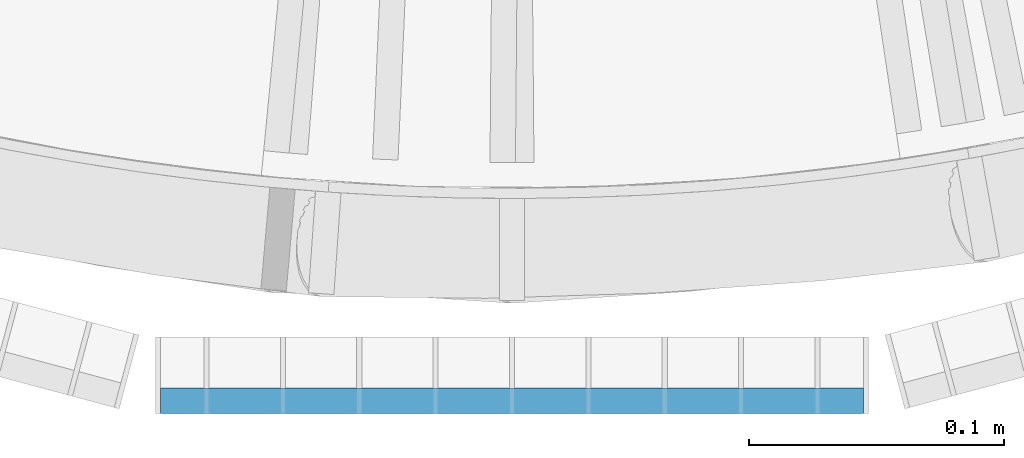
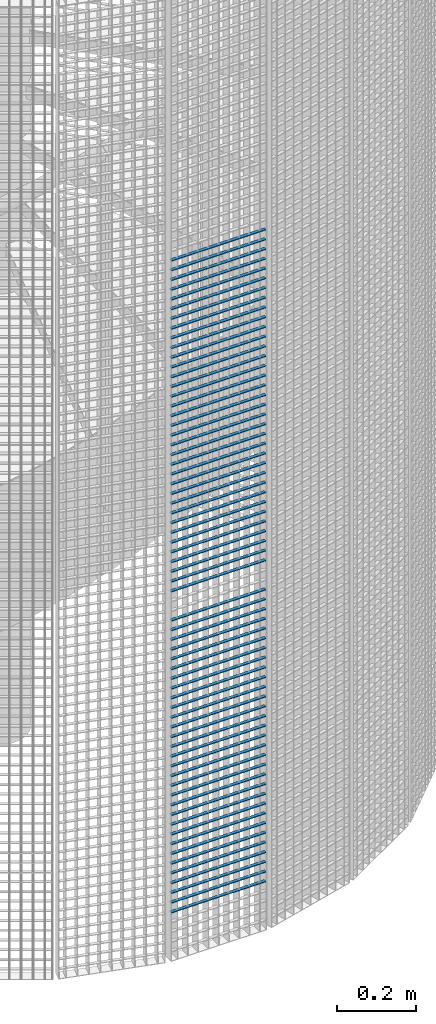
# One storey, part 168 of 1148: 66 beams, 1 element without a shape of its own.
"""IFC2X3 building model written with IfcOpenShell, lengths in millimetres."""

import ifcopenshell
import ifcopenshell.guid

model = None  # the IFC model being written
_history = None  # IfcOwnerHistory: only IFC2X3 demands one
_inside = {}  # id of a spatial element -> (the spatial element, [elements in it])
_under = {}  # id of a project, library or spatial element -> (it, [spatial elements below it])
_declared = {}  # id of a project -> (the project, [libraries it declares])
_typed = {}  # id of a type object -> (the type object, [elements of that type])
_made_of = {}  # id of a material, layer set ... -> (it, [elements and type objects made of it])


def new_model(schema):
    """Start an empty IFC model of exactly this schema.

    Asked for "IFC4X3", IfcOpenShell would pick the latest addendum, in which some entities
    have other attributes; the version numbers below select the first issue.
    IFC2X3 requires an IfcOwnerHistory on every rooted entity: one is made here for all.
    """
    global model, _history
    if schema == "IFC4X3":
        model = ifcopenshell.file(schema_version=(4, 3, 0, 0))
    else:
        model = ifcopenshell.file(schema=schema)
    _inside.clear()
    _under.clear()
    _declared.clear()
    _typed.clear()
    _made_of.clear()
    _history = None
    if model.schema == "IFC2X3":
        org = make("IfcOrganization", Name="unknown")
        user = make(
            "IfcPersonAndOrganization",
            ThePerson=make("IfcPerson", FamilyName="unknown"),
            TheOrganization=org,
        )
        app = make(
            "IfcApplication",
            ApplicationDeveloper=org,
            Version="unknown",
            ApplicationFullName="unknown",
            ApplicationIdentifier="unknown",
        )
        _history = make(
            "IfcOwnerHistory",
            OwningUser=user,
            OwningApplication=app,
            ChangeAction="ADDED",
            CreationDate=0,
        )
    return model


def make(cls, **values):
    """One entity of the class cls with the attributes given. An attribute that is None is left unset."""
    return model.create_entity(
        cls, **{name: value for name, value in values.items() if value is not None}
    )


def rooted(cls, **values):
    """An entity with a GlobalId (a new one), such as an element, a storey or a relation."""
    return make(cls, GlobalId=ifcopenshell.guid.new(), OwnerHistory=_history, **values)


def si_unit(unit_type, name, prefix=None):
    """IfcSIUnit, for example si_unit("LENGTHUNIT", "METRE", prefix="MILLI")."""
    return make("IfcSIUnit", UnitType=unit_type, Prefix=prefix, Name=name)


def assignment(units):
    """IfcUnitAssignment: the units of a project."""
    return None if units is None else make("IfcUnitAssignment", Units=units)


def point(xyz):
    """IfcCartesianPoint."""
    return None if xyz is None else make("IfcCartesianPoint", Coordinates=xyz)


def direction(xyz):
    """IfcDirection."""
    return None if xyz is None else make("IfcDirection", DirectionRatios=xyz)


def frame(location, z_axis=None, x_axis=None):
    """IfcAxis2Placement3D, a coordinate frame: its origin and axes. An axis left out is left unset."""
    return make(
        "IfcAxis2Placement3D",
        Location=point(location),
        Axis=direction(z_axis),
        RefDirection=direction(x_axis),
    )


def frame_2d(location, x_axis=None):
    """IfcAxis2Placement2D, a coordinate frame in the plane: its origin and x axis."""
    return make(
        "IfcAxis2Placement2D", Location=point(location), RefDirection=direction(x_axis)
    )


def origin_with_axes():
    """The frame at (0, 0, 0) with the z axis (0, 0, 1) and the x axis (1, 0, 0) written out."""
    return frame((0.0, 0.0, 0.0), z_axis=(0.0, 0.0, 1.0), x_axis=(1.0, 0.0, 0.0))


def origin_2d_with_axis():
    """The frame at (0, 0) in the plane with the x axis (1, 0) written out."""
    return frame_2d((0.0, 0.0), x_axis=(1.0, 0.0))


def place(relative_to, where):
    """IfcLocalPlacement: puts the frame where relative to a parent placement (None: the world)."""
    return make(
        "IfcLocalPlacement", PlacementRelTo=relative_to, RelativePlacement=where
    )


def context(
    kind, dimensions, precision=None, world=None, true_north=None, identifier=None
):
    """IfcGeometricRepresentationContext, for example the 3D "Model" context."""
    return make(
        "IfcGeometricRepresentationContext",
        ContextIdentifier=identifier,
        ContextType=kind,
        CoordinateSpaceDimension=dimensions,
        Precision=precision,
        WorldCoordinateSystem=world,
        TrueNorth=true_north,
    )


def subcontext(parent, identifier, kind, view, scale=None):
    """IfcGeometricRepresentationSubContext, for example "Body" below "Model"."""
    return make(
        "IfcGeometricRepresentationSubContext",
        ContextIdentifier=identifier,
        ContextType=kind,
        ParentContext=parent,
        TargetScale=scale,
        TargetView=view,
    )


def project(units=None, contexts=None):
    """IfcProject with its units and contexts."""
    return rooted(
        "IfcProject",
        Name="project",
        RepresentationContexts=contexts,
        UnitsInContext=assignment(units),
    )


def spatial(cls, under=None, at=None, **own):
    """A site, building, storey or space (cls), placed at a placement, below another one or the project."""
    s = rooted(cls, ObjectPlacement=at, **own)
    if under is not None:
        _under.setdefault(under.id(), (under, []))[1].append(s)
    return s


def profile(cls, at=None, kind="AREA", **sizes):
    """A parametric profile (cls). Its sizes go by their IFC names, for example OverallWidth=200.0."""
    return make(cls, ProfileType=kind, Position=at, **sizes)


def rectangle(**sizes):
    """IfcRectangleProfileDef."""
    return profile("IfcRectangleProfileDef", **sizes)


def extrude(swept, where, along, depth):
    """IfcExtrudedAreaSolid: the profile swept, set in the frame where, extruded along a direction by depth."""
    return make(
        "IfcExtrudedAreaSolid",
        SweptArea=swept,
        Position=where,
        ExtrudedDirection=direction(along),
        Depth=depth,
    )


def shape(context_of_items, identifier, shape_type, items):
    """IfcShapeRepresentation: the items that make up one representation, for example the "Body"."""
    return make(
        "IfcShapeRepresentation",
        ContextOfItems=context_of_items,
        RepresentationIdentifier=identifier,
        RepresentationType=shape_type,
        Items=items,
    )


def material(Name=None, Category=None):
    """IfcMaterial."""
    return make("IfcMaterial", Name=Name, Category=Category)


def made_of(thing, what):
    """Note that an element or type object is made of a material, layer set ...; save() writes the relation."""
    if what is not None:
        _made_of.setdefault(what.id(), (what, []))[1].append(thing)
    return thing


def type_object(cls, material=None, **own):
    """A type object (cls), such as IfcWallType, which elements share."""
    return made_of(rooted(cls, **own), material)


def element(
    cls,
    number,
    at=None,
    inside=None,
    cuts=None,
    type_object=None,
    material=None,
    context=None,
    identifier="Body",
    shape_type=None,
    held_by="IfcProductDefinitionShape",
    body=None,
    shapes=None,
    **own,
):
    """One element of the class cls, such as IfcWall. Its Tag is "e" and its number.

    at: its placement. inside: the storey or other place that contains it. cuts: it is an
    opening in that element (IfcRelVoidsElement). A single representation is given by context,
    identifier, shape_type and body (its items); several are given by shapes. held_by: the class
    of the entity that holds the representations. save() writes the other relations.
    """
    e = rooted(cls, Tag="e%d" % number, ObjectPlacement=at, **own)
    if body is not None:
        shapes = [shape(context, identifier, shape_type, body)]
    if shapes is not None:
        e.Representation = make(held_by, Representations=shapes)
    if inside is not None:
        _inside.setdefault(inside.id(), (inside, []))[1].append(e)
    if cuts is not None:
        rooted(
            "IfcRelVoidsElement", RelatingBuildingElement=cuts, RelatedOpeningElement=e
        )
    if type_object is not None:
        _typed.setdefault(type_object.id(), (type_object, []))[1].append(e)
    return made_of(e, material)


def aggregate(whole, parts):
    """IfcRelAggregates: a whole, such as a stair, and the parts it consists of."""
    return rooted("IfcRelAggregates", RelatingObject=whole, RelatedObjects=parts)


def save(model, path):
    """Write the relations noted so far, then the file.

    IfcRelAggregates (storeys below a building ...), IfcRelContainedInSpatialStructure (elements
    in a storey), IfcRelDefinesByType, IfcRelAssociatesMaterial and IfcRelDeclares: one each for
    every whole, place, type object, material and project.
    """
    for whole, parts in _under.values():
        aggregate(whole, parts)
    for where, things in _inside.values():
        rooted(
            "IfcRelContainedInSpatialStructure",
            RelatedElements=things,
            RelatingStructure=where,
        )
    for kind, things in _typed.values():
        rooted("IfcRelDefinesByType", RelatedObjects=things, RelatingType=kind)
    for what, things in _made_of.values():
        rooted("IfcRelAssociatesMaterial", RelatedObjects=things, RelatingMaterial=what)
    for by, libraries in _declared.values():
        rooted("IfcRelDeclares", RelatingContext=by, RelatedDefinitions=libraries)
    model.write(path)


model = new_model("IFC2X3")

# Units and contexts
model_context = context("Model", 3, precision=1e-05, world=origin_with_axes())
body_context = subcontext(model_context, "Body", "Model", "MODEL_VIEW")
ifc_project = project(units=[si_unit("LENGTHUNIT", "METRE", prefix="MILLI"), si_unit("AREAUNIT", "SQUARE_METRE"), si_unit("VOLUMEUNIT", "CUBIC_METRE"), si_unit("MASSUNIT", "GRAM", prefix="KILO"), si_unit("TIMEUNIT", "SECOND"), si_unit("PLANEANGLEUNIT", "RADIAN"), si_unit("SOLIDANGLEUNIT", "STERADIAN"), si_unit("THERMODYNAMICTEMPERATUREUNIT", "DEGREE_CELSIUS"), si_unit("LUMINOUSINTENSITYUNIT", "LUMEN")], contexts=[model_context])

# Site, building, storey
site_placement = place(None, origin_with_axes())
site = spatial("IfcSite", under=ifc_project, at=site_placement, Name="Undefined", CompositionType="ELEMENT")
building_placement = place(site_placement, origin_with_axes())
building = spatial("IfcBuilding", under=site, at=building_placement, Name="Undefined", CompositionType="ELEMENT")
storey_placement = place(building_placement, origin_with_axes())
storey = spatial("IfcBuildingStorey", under=building, at=storey_placement, Name="Undefined", CompositionType="ELEMENT", Elevation=0.0)

# Assembly, beams
assembly_placement = place(storey_placement, origin_with_axes())
assembly = element("IfcElementAssembly", 1, at=assembly_placement, inside=storey, Name="BORDURE", AssemblyPlace="NOTDEFINED", PredefinedType="NOTDEFINED")
ifc_material = material(Name="STEEL/S235JR")
beam_type = type_object("IfcBeamType", Name="PL2*10", PredefinedType="NOTDEFINED")
beam_1_placement = place(assembly_placement, frame((-137.996003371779, -1113.47999999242, 2160.0), z_axis=(0.0, -1.0, 0.0), x_axis=(1.0, 0.0, 0.0)))
beam_1 = element("IfcBeam", 2, at=beam_1_placement, type_object=beam_type, material=ifc_material, Name="ENTRETOISE", context=body_context, shape_type="SweptSolid", body=[
    extrude(rectangle(XDim=2.0, YDim=10.0, at=origin_2d_with_axis()), frame((275.999999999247, 9.09494701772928e-13, 1.53210777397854e-14), z_axis=(-1.0, 0.0, 0.0), x_axis=(0.0, -1.0, 0.0)), (0.0, 0.0, 1.0), 276.0),
])
beam_2_placement = place(assembly_placement, frame((-137.996003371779, -1113.47999999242, 2130.0), z_axis=(0.0, -1.0, 0.0), x_axis=(1.0, 0.0, 0.0)))
beam_2 = element("IfcBeam", 3, at=beam_2_placement, type_object=beam_type, material=ifc_material, Name="ENTRETOISE", context=body_context, shape_type="SweptSolid", body=[
    extrude(rectangle(XDim=2.0, YDim=10.0, at=origin_2d_with_axis()), frame((275.999999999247, 9.09494701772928e-13, 1.53210777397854e-14), z_axis=(-1.0, 0.0, 0.0), x_axis=(0.0, -1.0, 0.0)), (0.0, 0.0, 1.0), 276.0),
])
beam_3_placement = place(assembly_placement, frame((-137.996003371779, -1113.47999999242, 2100.0), z_axis=(0.0, -1.0, 0.0), x_axis=(1.0, 0.0, 0.0)))
beam_3 = element("IfcBeam", 4, at=beam_3_placement, type_object=beam_type, material=ifc_material, Name="ENTRETOISE", context=body_context, shape_type="SweptSolid", body=[
    extrude(rectangle(XDim=2.0, YDim=10.0, at=origin_2d_with_axis()), frame((275.999999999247, 9.09494701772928e-13, 1.53210777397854e-14), z_axis=(-1.0, 0.0, 0.0), x_axis=(0.0, -1.0, 0.0)), (0.0, 0.0, 1.0), 276.0),
])
beam_4_placement = place(assembly_placement, frame((-137.996003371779, -1113.47999999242, 2070.0), z_axis=(0.0, -1.0, 0.0), x_axis=(1.0, 0.0, 0.0)))
beam_4 = element("IfcBeam", 5, at=beam_4_placement, type_object=beam_type, material=ifc_material, Name="ENTRETOISE", context=body_context, shape_type="SweptSolid", body=[
    extrude(rectangle(XDim=2.0, YDim=10.0, at=origin_2d_with_axis()), frame((275.999999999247, 9.09494701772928e-13, 1.53210777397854e-14), z_axis=(-1.0, 0.0, 0.0), x_axis=(0.0, -1.0, 0.0)), (0.0, 0.0, 1.0), 276.0),
])
beam_5_placement = place(assembly_placement, frame((-137.996003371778, -1113.47999999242, 2040.0), z_axis=(0.0, -1.0, 0.0), x_axis=(1.0, 0.0, 0.0)))
beam_5 = element("IfcBeam", 6, at=beam_5_placement, type_object=beam_type, material=ifc_material, Name="ENTRETOISE", context=body_context, shape_type="SweptSolid", body=[
    extrude(rectangle(XDim=2.0, YDim=10.0, at=origin_2d_with_axis()), frame((275.999999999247, 9.09494701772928e-13, 1.53210777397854e-14), z_axis=(-1.0, 0.0, 0.0), x_axis=(0.0, -1.0, 0.0)), (0.0, 0.0, 1.0), 276.0),
])
beam_6_placement = place(assembly_placement, frame((-137.996003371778, -1113.47999999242, 2010.0), z_axis=(0.0, -1.0, 0.0), x_axis=(1.0, 0.0, 0.0)))
beam_6 = element("IfcBeam", 7, at=beam_6_placement, type_object=beam_type, material=ifc_material, Name="ENTRETOISE", context=body_context, shape_type="SweptSolid", body=[
    extrude(rectangle(XDim=2.0, YDim=10.0, at=origin_2d_with_axis()), frame((275.999999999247, 9.09494701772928e-13, 1.53210777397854e-14), z_axis=(-1.0, 0.0, 0.0), x_axis=(0.0, -1.0, 0.0)), (0.0, 0.0, 1.0), 276.0),
])
beam_7_placement = place(assembly_placement, frame((-137.996003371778, -1113.47999999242, 1980.0), z_axis=(0.0, -1.0, 0.0), x_axis=(1.0, 0.0, 0.0)))
beam_7 = element("IfcBeam", 8, at=beam_7_placement, type_object=beam_type, material=ifc_material, Name="ENTRETOISE", context=body_context, shape_type="SweptSolid", body=[
    extrude(rectangle(XDim=2.0, YDim=10.0, at=origin_2d_with_axis()), frame((275.999999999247, 9.09494701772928e-13, 1.53210777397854e-14), z_axis=(-1.0, 0.0, 0.0), x_axis=(0.0, -1.0, 0.0)), (0.0, 0.0, 1.0), 276.0),
])
beam_8_placement = place(assembly_placement, frame((-137.996003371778, -1113.47999999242, 1950.0), z_axis=(0.0, -1.0, 0.0), x_axis=(1.0, 0.0, 0.0)))
beam_8 = element("IfcBeam", 9, at=beam_8_placement, type_object=beam_type, material=ifc_material, Name="ENTRETOISE", context=body_context, shape_type="SweptSolid", body=[
    extrude(rectangle(XDim=2.0, YDim=10.0, at=origin_2d_with_axis()), frame((275.999999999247, 9.09494701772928e-13, 1.53210777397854e-14), z_axis=(-1.0, 0.0, 0.0), x_axis=(0.0, -1.0, 0.0)), (0.0, 0.0, 1.0), 276.0),
])
beam_9_placement = place(assembly_placement, frame((-137.996003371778, -1113.47999999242, 1920.0), z_axis=(0.0, -1.0, 0.0), x_axis=(1.0, 0.0, 0.0)))
beam_9 = element("IfcBeam", 10, at=beam_9_placement, type_object=beam_type, material=ifc_material, Name="ENTRETOISE", context=body_context, shape_type="SweptSolid", body=[
    extrude(rectangle(XDim=2.0, YDim=10.0, at=origin_2d_with_axis()), frame((275.999999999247, 9.09494701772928e-13, 1.53210777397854e-14), z_axis=(-1.0, 0.0, 0.0), x_axis=(0.0, -1.0, 0.0)), (0.0, 0.0, 1.0), 276.0),
])
beam_10_placement = place(assembly_placement, frame((-137.996003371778, -1113.47999999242, 1890.0), z_axis=(0.0, -1.0, 0.0), x_axis=(1.0, 0.0, 0.0)))
beam_10 = element("IfcBeam", 11, at=beam_10_placement, type_object=beam_type, material=ifc_material, Name="ENTRETOISE", context=body_context, shape_type="SweptSolid", body=[
    extrude(rectangle(XDim=2.0, YDim=10.0, at=origin_2d_with_axis()), frame((275.999999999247, 9.09494701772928e-13, 1.53210777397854e-14), z_axis=(-1.0, 0.0, 0.0), x_axis=(0.0, -1.0, 0.0)), (0.0, 0.0, 1.0), 276.0),
])
beam_11_placement = place(assembly_placement, frame((-137.996003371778, -1113.47999999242, 1860.0), z_axis=(0.0, -1.0, 0.0), x_axis=(1.0, 0.0, 0.0)))
beam_11 = element("IfcBeam", 12, at=beam_11_placement, type_object=beam_type, material=ifc_material, Name="ENTRETOISE", context=body_context, shape_type="SweptSolid", body=[
    extrude(rectangle(XDim=2.0, YDim=10.0, at=origin_2d_with_axis()), frame((275.999999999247, 9.09494701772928e-13, 1.53210777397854e-14), z_axis=(-1.0, 0.0, 0.0), x_axis=(0.0, -1.0, 0.0)), (0.0, 0.0, 1.0), 276.0),
])
beam_12_placement = place(assembly_placement, frame((-137.996003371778, -1113.47999999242, 1830.0), z_axis=(0.0, -1.0, 0.0), x_axis=(1.0, 0.0, 0.0)))
beam_12 = element("IfcBeam", 13, at=beam_12_placement, type_object=beam_type, material=ifc_material, Name="ENTRETOISE", context=body_context, shape_type="SweptSolid", body=[
    extrude(rectangle(XDim=2.0, YDim=10.0, at=origin_2d_with_axis()), frame((275.999999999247, 9.09494701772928e-13, 1.53210777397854e-14), z_axis=(-1.0, 0.0, 0.0), x_axis=(0.0, -1.0, 0.0)), (0.0, 0.0, 1.0), 276.0),
])
beam_13_placement = place(assembly_placement, frame((-137.996003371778, -1113.47999999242, 1800.0), z_axis=(0.0, -1.0, 0.0), x_axis=(1.0, 0.0, 0.0)))
beam_13 = element("IfcBeam", 14, at=beam_13_placement, type_object=beam_type, material=ifc_material, Name="ENTRETOISE", context=body_context, shape_type="SweptSolid", body=[
    extrude(rectangle(XDim=2.0, YDim=10.0, at=origin_2d_with_axis()), frame((275.999999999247, 9.09494701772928e-13, 1.53210777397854e-14), z_axis=(-1.0, 0.0, 0.0), x_axis=(0.0, -1.0, 0.0)), (0.0, 0.0, 1.0), 276.0),
])
beam_14_placement = place(assembly_placement, frame((-137.996003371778, -1113.47999999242, 1770.0), z_axis=(0.0, -1.0, 0.0), x_axis=(1.0, 0.0, 0.0)))
beam_14 = element("IfcBeam", 15, at=beam_14_placement, type_object=beam_type, material=ifc_material, Name="ENTRETOISE", context=body_context, shape_type="SweptSolid", body=[
    extrude(rectangle(XDim=2.0, YDim=10.0, at=origin_2d_with_axis()), frame((275.999999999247, 9.09494701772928e-13, 1.53210777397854e-14), z_axis=(-1.0, 0.0, 0.0), x_axis=(0.0, -1.0, 0.0)), (0.0, 0.0, 1.0), 276.0),
])
beam_15_placement = place(assembly_placement, frame((-137.996003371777, -1113.47999999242, 1740.0), z_axis=(0.0, -1.0, 0.0), x_axis=(1.0, 0.0, 0.0)))
beam_15 = element("IfcBeam", 16, at=beam_15_placement, type_object=beam_type, material=ifc_material, Name="ENTRETOISE", context=body_context, shape_type="SweptSolid", body=[
    extrude(rectangle(XDim=2.0, YDim=10.0, at=origin_2d_with_axis()), frame((275.999999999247, 9.09494701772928e-13, 1.53210777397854e-14), z_axis=(-1.0, 0.0, 0.0), x_axis=(0.0, -1.0, 0.0)), (0.0, 0.0, 1.0), 276.0),
])
beam_16_placement = place(assembly_placement, frame((-137.996003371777, -1113.47999999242, 1710.0), z_axis=(0.0, -1.0, 0.0), x_axis=(1.0, 0.0, 0.0)))
beam_16 = element("IfcBeam", 17, at=beam_16_placement, type_object=beam_type, material=ifc_material, Name="ENTRETOISE", context=body_context, shape_type="SweptSolid", body=[
    extrude(rectangle(XDim=2.0, YDim=10.0, at=origin_2d_with_axis()), frame((275.999999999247, 9.09494701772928e-13, 1.53210777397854e-14), z_axis=(-1.0, 0.0, 0.0), x_axis=(0.0, -1.0, 0.0)), (0.0, 0.0, 1.0), 276.0),
])
beam_17_placement = place(assembly_placement, frame((-137.996003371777, -1113.47999999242, 1680.0), z_axis=(0.0, -1.0, 0.0), x_axis=(1.0, 0.0, 0.0)))
beam_17 = element("IfcBeam", 18, at=beam_17_placement, type_object=beam_type, material=ifc_material, Name="ENTRETOISE", context=body_context, shape_type="SweptSolid", body=[
    extrude(rectangle(XDim=2.0, YDim=10.0, at=origin_2d_with_axis()), frame((275.999999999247, 9.09494701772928e-13, 1.53210777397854e-14), z_axis=(-1.0, 0.0, 0.0), x_axis=(0.0, -1.0, 0.0)), (0.0, 0.0, 1.0), 276.0),
])
beam_18_placement = place(assembly_placement, frame((-137.996003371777, -1113.47999999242, 1650.0), z_axis=(0.0, -1.0, 0.0), x_axis=(1.0, 0.0, 0.0)))
beam_18 = element("IfcBeam", 19, at=beam_18_placement, type_object=beam_type, material=ifc_material, Name="ENTRETOISE", context=body_context, shape_type="SweptSolid", body=[
    extrude(rectangle(XDim=2.0, YDim=10.0, at=origin_2d_with_axis()), frame((275.999999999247, 9.09494701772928e-13, 1.53210777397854e-14), z_axis=(-1.0, 0.0, 0.0), x_axis=(0.0, -1.0, 0.0)), (0.0, 0.0, 1.0), 276.0),
])
beam_19_placement = place(assembly_placement, frame((-137.996003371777, -1113.47999999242, 1620.0), z_axis=(0.0, -1.0, 0.0), x_axis=(1.0, 0.0, 0.0)))
beam_19 = element("IfcBeam", 20, at=beam_19_placement, type_object=beam_type, material=ifc_material, Name="ENTRETOISE", context=body_context, shape_type="SweptSolid", body=[
    extrude(rectangle(XDim=2.0, YDim=10.0, at=origin_2d_with_axis()), frame((275.999999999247, 9.09494701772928e-13, 1.53210777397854e-14), z_axis=(-1.0, 0.0, 0.0), x_axis=(0.0, -1.0, 0.0)), (0.0, 0.0, 1.0), 276.0),
])
beam_20_placement = place(assembly_placement, frame((-137.996003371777, -1113.47999999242, 1590.0), z_axis=(0.0, -1.0, 0.0), x_axis=(1.0, 0.0, 0.0)))
beam_20 = element("IfcBeam", 21, at=beam_20_placement, type_object=beam_type, material=ifc_material, Name="ENTRETOISE", context=body_context, shape_type="SweptSolid", body=[
    extrude(rectangle(XDim=2.0, YDim=10.0, at=origin_2d_with_axis()), frame((275.999999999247, 9.09494701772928e-13, 1.53210777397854e-14), z_axis=(-1.0, 0.0, 0.0), x_axis=(0.0, -1.0, 0.0)), (0.0, 0.0, 1.0), 276.0),
])
beam_21_placement = place(assembly_placement, frame((-137.996003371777, -1113.47999999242, 1560.0), z_axis=(0.0, -1.0, 0.0), x_axis=(1.0, 0.0, 0.0)))
beam_21 = element("IfcBeam", 22, at=beam_21_placement, type_object=beam_type, material=ifc_material, Name="ENTRETOISE", context=body_context, shape_type="SweptSolid", body=[
    extrude(rectangle(XDim=2.0, YDim=10.0, at=origin_2d_with_axis()), frame((275.999999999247, 9.09494701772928e-13, 1.53210777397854e-14), z_axis=(-1.0, 0.0, 0.0), x_axis=(0.0, -1.0, 0.0)), (0.0, 0.0, 1.0), 276.0),
])
beam_22_placement = place(assembly_placement, frame((-137.996003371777, -1113.47999999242, 1530.0), z_axis=(0.0, -1.0, 0.0), x_axis=(1.0, 0.0, 0.0)))
beam_22 = element("IfcBeam", 23, at=beam_22_placement, type_object=beam_type, material=ifc_material, Name="ENTRETOISE", context=body_context, shape_type="SweptSolid", body=[
    extrude(rectangle(XDim=2.0, YDim=10.0, at=origin_2d_with_axis()), frame((275.999999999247, 9.09494701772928e-13, 1.53210777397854e-14), z_axis=(-1.0, 0.0, 0.0), x_axis=(0.0, -1.0, 0.0)), (0.0, 0.0, 1.0), 276.0),
])
beam_23_placement = place(assembly_placement, frame((-137.996003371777, -1113.47999999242, 1500.0), z_axis=(0.0, -1.0, 0.0), x_axis=(1.0, 0.0, 0.0)))
beam_23 = element("IfcBeam", 24, at=beam_23_placement, type_object=beam_type, material=ifc_material, Name="ENTRETOISE", context=body_context, shape_type="SweptSolid", body=[
    extrude(rectangle(XDim=2.0, YDim=10.0, at=origin_2d_with_axis()), frame((275.999999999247, 9.09494701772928e-13, 1.53210777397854e-14), z_axis=(-1.0, 0.0, 0.0), x_axis=(0.0, -1.0, 0.0)), (0.0, 0.0, 1.0), 276.0),
])
beam_24_placement = place(assembly_placement, frame((-137.996003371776, -1113.47999999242, 1470.0), z_axis=(0.0, -1.0, 0.0), x_axis=(1.0, 0.0, 0.0)))
beam_24 = element("IfcBeam", 25, at=beam_24_placement, type_object=beam_type, material=ifc_material, Name="ENTRETOISE", context=body_context, shape_type="SweptSolid", body=[
    extrude(rectangle(XDim=2.0, YDim=10.0, at=origin_2d_with_axis()), frame((275.999999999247, 9.09494701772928e-13, 1.53210777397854e-14), z_axis=(-1.0, 0.0, 0.0), x_axis=(0.0, -1.0, 0.0)), (0.0, 0.0, 1.0), 276.0),
])
beam_25_placement = place(assembly_placement, frame((-137.996003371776, -1113.47999999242, 1440.0), z_axis=(0.0, -1.0, 0.0), x_axis=(1.0, 0.0, 0.0)))
beam_25 = element("IfcBeam", 26, at=beam_25_placement, type_object=beam_type, material=ifc_material, Name="ENTRETOISE", context=body_context, shape_type="SweptSolid", body=[
    extrude(rectangle(XDim=2.0, YDim=10.0, at=origin_2d_with_axis()), frame((275.999999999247, 9.09494701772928e-13, 1.53210777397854e-14), z_axis=(-1.0, 0.0, 0.0), x_axis=(0.0, -1.0, 0.0)), (0.0, 0.0, 1.0), 276.0),
])
beam_26_placement = place(assembly_placement, frame((-137.996003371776, -1113.47999999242, 1410.0), z_axis=(0.0, -1.0, 0.0), x_axis=(1.0, 0.0, 0.0)))
beam_26 = element("IfcBeam", 27, at=beam_26_placement, type_object=beam_type, material=ifc_material, Name="ENTRETOISE", context=body_context, shape_type="SweptSolid", body=[
    extrude(rectangle(XDim=2.0, YDim=10.0, at=origin_2d_with_axis()), frame((275.999999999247, 9.09494701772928e-13, 1.53210777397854e-14), z_axis=(-1.0, 0.0, 0.0), x_axis=(0.0, -1.0, 0.0)), (0.0, 0.0, 1.0), 276.0),
])
beam_27_placement = place(assembly_placement, frame((-137.996003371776, -1113.47999999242, 1380.0), z_axis=(0.0, -1.0, 0.0), x_axis=(1.0, 0.0, 0.0)))
beam_27 = element("IfcBeam", 28, at=beam_27_placement, type_object=beam_type, material=ifc_material, Name="ENTRETOISE", context=body_context, shape_type="SweptSolid", body=[
    extrude(rectangle(XDim=2.0, YDim=10.0, at=origin_2d_with_axis()), frame((275.999999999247, 9.09494701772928e-13, 1.53210777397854e-14), z_axis=(-1.0, 0.0, 0.0), x_axis=(0.0, -1.0, 0.0)), (0.0, 0.0, 1.0), 276.0),
])
beam_28_placement = place(assembly_placement, frame((-137.996003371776, -1113.47999999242, 1350.0), z_axis=(0.0, -1.0, 0.0), x_axis=(1.0, 0.0, 0.0)))
beam_28 = element("IfcBeam", 29, at=beam_28_placement, type_object=beam_type, material=ifc_material, Name="ENTRETOISE", context=body_context, shape_type="SweptSolid", body=[
    extrude(rectangle(XDim=2.0, YDim=10.0, at=origin_2d_with_axis()), frame((275.999999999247, 9.09494701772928e-13, 1.53210777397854e-14), z_axis=(-1.0, 0.0, 0.0), x_axis=(0.0, -1.0, 0.0)), (0.0, 0.0, 1.0), 276.0),
])
beam_29_placement = place(assembly_placement, frame((-137.996003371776, -1113.47999999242, 1320.0), z_axis=(0.0, -1.0, 0.0), x_axis=(1.0, 0.0, 0.0)))
beam_29 = element("IfcBeam", 30, at=beam_29_placement, type_object=beam_type, material=ifc_material, Name="ENTRETOISE", context=body_context, shape_type="SweptSolid", body=[
    extrude(rectangle(XDim=2.0, YDim=10.0, at=origin_2d_with_axis()), frame((275.999999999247, 9.09494701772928e-13, 1.53210777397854e-14), z_axis=(-1.0, 0.0, 0.0), x_axis=(0.0, -1.0, 0.0)), (0.0, 0.0, 1.0), 276.0),
])
beam_30_placement = place(assembly_placement, frame((-137.996003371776, -1113.47999999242, 1290.0), z_axis=(0.0, -1.0, 0.0), x_axis=(1.0, 0.0, 0.0)))
beam_30 = element("IfcBeam", 31, at=beam_30_placement, type_object=beam_type, material=ifc_material, Name="ENTRETOISE", context=body_context, shape_type="SweptSolid", body=[
    extrude(rectangle(XDim=2.0, YDim=10.0, at=origin_2d_with_axis()), frame((275.999999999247, 9.09494701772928e-13, 1.53210777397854e-14), z_axis=(-1.0, 0.0, 0.0), x_axis=(0.0, -1.0, 0.0)), (0.0, 0.0, 1.0), 276.0),
])
beam_31_placement = place(assembly_placement, frame((-137.996003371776, -1113.47999999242, 1260.0), z_axis=(0.0, -1.0, 0.0), x_axis=(1.0, 0.0, 0.0)))
beam_31 = element("IfcBeam", 32, at=beam_31_placement, type_object=beam_type, material=ifc_material, Name="ENTRETOISE", context=body_context, shape_type="SweptSolid", body=[
    extrude(rectangle(XDim=2.0, YDim=10.0, at=origin_2d_with_axis()), frame((275.999999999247, 9.09494701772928e-13, 1.53210777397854e-14), z_axis=(-1.0, 0.0, 0.0), x_axis=(0.0, -1.0, 0.0)), (0.0, 0.0, 1.0), 276.0),
])
beam_32_placement = place(assembly_placement, frame((-137.996003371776, -1113.47999999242, 1230.0), z_axis=(0.0, -1.0, 0.0), x_axis=(1.0, 0.0, 0.0)))
beam_32 = element("IfcBeam", 33, at=beam_32_placement, type_object=beam_type, material=ifc_material, Name="ENTRETOISE", context=body_context, shape_type="SweptSolid", body=[
    extrude(rectangle(XDim=2.0, YDim=10.0, at=origin_2d_with_axis()), frame((275.999999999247, 9.09494701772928e-13, 1.53210777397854e-14), z_axis=(-1.0, 0.0, 0.0), x_axis=(0.0, -1.0, 0.0)), (0.0, 0.0, 1.0), 276.0),
])
beam_33_placement = place(assembly_placement, frame((-137.996003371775, -1113.47999999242, 1200.0), z_axis=(0.0, -1.0, 0.0), x_axis=(1.0, 0.0, 0.0)))
beam_33 = element("IfcBeam", 34, at=beam_33_placement, type_object=beam_type, material=ifc_material, Name="ENTRETOISE", context=body_context, shape_type="SweptSolid", body=[
    extrude(rectangle(XDim=2.0, YDim=10.0, at=origin_2d_with_axis()), frame((275.999999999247, 9.09494701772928e-13, 1.53210777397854e-14), z_axis=(-1.0, 0.0, 0.0), x_axis=(0.0, -1.0, 0.0)), (0.0, 0.0, 1.0), 276.0),
])
beam_34_placement = place(assembly_placement, frame((-137.996003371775, -1113.47999999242, 1170.0), z_axis=(0.0, -1.0, 0.0), x_axis=(1.0, 0.0, 0.0)))
beam_34 = element("IfcBeam", 35, at=beam_34_placement, type_object=beam_type, material=ifc_material, Name="ENTRETOISE", context=body_context, shape_type="SweptSolid", body=[
    extrude(rectangle(XDim=2.0, YDim=10.0, at=origin_2d_with_axis()), frame((275.999999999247, 9.09494701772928e-13, 1.53210777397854e-14), z_axis=(-1.0, 0.0, 0.0), x_axis=(0.0, -1.0, 0.0)), (0.0, 0.0, 1.0), 276.0),
])
beam_35_placement = place(assembly_placement, frame((-137.996003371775, -1113.47999999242, 1140.0), z_axis=(0.0, -1.0, 0.0), x_axis=(1.0, 0.0, 0.0)))
beam_35 = element("IfcBeam", 36, at=beam_35_placement, type_object=beam_type, material=ifc_material, Name="ENTRETOISE", context=body_context, shape_type="SweptSolid", body=[
    extrude(rectangle(XDim=2.0, YDim=10.0, at=origin_2d_with_axis()), frame((275.999999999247, 9.09494701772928e-13, 1.53210777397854e-14), z_axis=(-1.0, 0.0, 0.0), x_axis=(0.0, -1.0, 0.0)), (0.0, 0.0, 1.0), 276.0),
])
beam_36_placement = place(assembly_placement, frame((-137.996003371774, -1113.47999999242, 719.999999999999), z_axis=(0.0, -1.0, 0.0), x_axis=(1.0, 0.0, 0.0)))
beam_36 = element("IfcBeam", 37, at=beam_36_placement, type_object=beam_type, material=ifc_material, Name="ENTRETOISE", context=body_context, shape_type="SweptSolid", body=[
    extrude(rectangle(XDim=2.0, YDim=10.0, at=origin_2d_with_axis()), frame((275.999999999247, 9.09494701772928e-13, 1.53210777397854e-14), z_axis=(-1.0, 0.0, 0.0), x_axis=(0.0, -1.0, 0.0)), (0.0, 0.0, 1.0), 276.0),
])
beam_37_placement = place(assembly_placement, frame((-137.996003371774, -1113.47999999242, 689.999999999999), z_axis=(0.0, -1.0, 0.0), x_axis=(1.0, 0.0, 0.0)))
beam_37 = element("IfcBeam", 38, at=beam_37_placement, type_object=beam_type, material=ifc_material, Name="ENTRETOISE", context=body_context, shape_type="SweptSolid", body=[
    extrude(rectangle(XDim=2.0, YDim=10.0, at=origin_2d_with_axis()), frame((275.999999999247, 9.09494701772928e-13, 1.53210777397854e-14), z_axis=(-1.0, 0.0, 0.0), x_axis=(0.0, -1.0, 0.0)), (0.0, 0.0, 1.0), 276.0),
])
beam_38_placement = place(assembly_placement, frame((-137.996003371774, -1113.47999999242, 749.999999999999), z_axis=(0.0, -1.0, 0.0), x_axis=(1.0, 0.0, 0.0)))
beam_38 = element("IfcBeam", 39, at=beam_38_placement, type_object=beam_type, material=ifc_material, Name="ENTRETOISE", context=body_context, shape_type="SweptSolid", body=[
    extrude(rectangle(XDim=2.0, YDim=10.0, at=origin_2d_with_axis()), frame((275.999999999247, 9.09494701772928e-13, 1.53210777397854e-14), z_axis=(-1.0, 0.0, 0.0), x_axis=(0.0, -1.0, 0.0)), (0.0, 0.0, 1.0), 276.0),
])
beam_39_placement = place(assembly_placement, frame((-137.996003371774, -1113.47999999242, 659.999999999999), z_axis=(0.0, -1.0, 0.0), x_axis=(1.0, 0.0, 0.0)))
beam_39 = element("IfcBeam", 40, at=beam_39_placement, type_object=beam_type, material=ifc_material, Name="ENTRETOISE", context=body_context, shape_type="SweptSolid", body=[
    extrude(rectangle(XDim=2.0, YDim=10.0, at=origin_2d_with_axis()), frame((275.999999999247, 9.09494701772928e-13, 1.53210777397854e-14), z_axis=(-1.0, 0.0, 0.0), x_axis=(0.0, -1.0, 0.0)), (0.0, 0.0, 1.0), 276.0),
])
beam_40_placement = place(assembly_placement, frame((-137.996003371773, -1113.47999999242, 629.999999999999), z_axis=(0.0, -1.0, 0.0), x_axis=(1.0, 0.0, 0.0)))
beam_40 = element("IfcBeam", 41, at=beam_40_placement, type_object=beam_type, material=ifc_material, Name="ENTRETOISE", context=body_context, shape_type="SweptSolid", body=[
    extrude(rectangle(XDim=2.0, YDim=10.0, at=origin_2d_with_axis()), frame((275.999999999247, 9.09494701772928e-13, 1.53210777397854e-14), z_axis=(-1.0, 0.0, 0.0), x_axis=(0.0, -1.0, 0.0)), (0.0, 0.0, 1.0), 276.0),
])
beam_41_placement = place(assembly_placement, frame((-137.996003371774, -1113.47999999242, 779.999999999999), z_axis=(0.0, -1.0, 0.0), x_axis=(1.0, 0.0, 0.0)))
beam_41 = element("IfcBeam", 42, at=beam_41_placement, type_object=beam_type, material=ifc_material, Name="ENTRETOISE", context=body_context, shape_type="SweptSolid", body=[
    extrude(rectangle(XDim=2.0, YDim=10.0, at=origin_2d_with_axis()), frame((275.999999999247, 9.09494701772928e-13, 1.53210777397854e-14), z_axis=(-1.0, 0.0, 0.0), x_axis=(0.0, -1.0, 0.0)), (0.0, 0.0, 1.0), 276.0),
])
beam_42_placement = place(assembly_placement, frame((-137.996003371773, -1113.47999999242, 599.999999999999), z_axis=(0.0, -1.0, 0.0), x_axis=(1.0, 0.0, 0.0)))
beam_42 = element("IfcBeam", 43, at=beam_42_placement, type_object=beam_type, material=ifc_material, Name="ENTRETOISE", context=body_context, shape_type="SweptSolid", body=[
    extrude(rectangle(XDim=2.0, YDim=10.0, at=origin_2d_with_axis()), frame((275.999999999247, 9.09494701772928e-13, 1.53210777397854e-14), z_axis=(-1.0, 0.0, 0.0), x_axis=(0.0, -1.0, 0.0)), (0.0, 0.0, 1.0), 276.0),
])
beam_43_placement = place(assembly_placement, frame((-137.996003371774, -1113.47999999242, 809.999999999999), z_axis=(0.0, -1.0, 0.0), x_axis=(1.0, 0.0, 0.0)))
beam_43 = element("IfcBeam", 44, at=beam_43_placement, type_object=beam_type, material=ifc_material, Name="ENTRETOISE", context=body_context, shape_type="SweptSolid", body=[
    extrude(rectangle(XDim=2.0, YDim=10.0, at=origin_2d_with_axis()), frame((275.999999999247, 9.09494701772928e-13, 1.53210777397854e-14), z_axis=(-1.0, 0.0, 0.0), x_axis=(0.0, -1.0, 0.0)), (0.0, 0.0, 1.0), 276.0),
])
beam_44_placement = place(assembly_placement, frame((-137.996003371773, -1113.47999999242, 569.999999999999), z_axis=(0.0, -1.0, 0.0), x_axis=(1.0, 0.0, 0.0)))
beam_44 = element("IfcBeam", 45, at=beam_44_placement, type_object=beam_type, material=ifc_material, Name="ENTRETOISE", context=body_context, shape_type="SweptSolid", body=[
    extrude(rectangle(XDim=2.0, YDim=10.0, at=origin_2d_with_axis()), frame((275.999999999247, 9.09494701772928e-13, 1.53210777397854e-14), z_axis=(-1.0, 0.0, 0.0), x_axis=(0.0, -1.0, 0.0)), (0.0, 0.0, 1.0), 276.0),
])
beam_45_placement = place(assembly_placement, frame((-137.996003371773, -1113.47999999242, 539.999999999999), z_axis=(0.0, -1.0, 0.0), x_axis=(1.0, 0.0, 0.0)))
beam_45 = element("IfcBeam", 46, at=beam_45_placement, type_object=beam_type, material=ifc_material, Name="ENTRETOISE", context=body_context, shape_type="SweptSolid", body=[
    extrude(rectangle(XDim=2.0, YDim=10.0, at=origin_2d_with_axis()), frame((275.999999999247, 9.09494701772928e-13, 1.53210777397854e-14), z_axis=(-1.0, 0.0, 0.0), x_axis=(0.0, -1.0, 0.0)), (0.0, 0.0, 1.0), 276.0),
])
beam_46_placement = place(assembly_placement, frame((-137.996003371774, -1113.47999999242, 839.999999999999), z_axis=(0.0, -1.0, 0.0), x_axis=(1.0, 0.0, 0.0)))
beam_46 = element("IfcBeam", 47, at=beam_46_placement, type_object=beam_type, material=ifc_material, Name="ENTRETOISE", context=body_context, shape_type="SweptSolid", body=[
    extrude(rectangle(XDim=2.0, YDim=10.0, at=origin_2d_with_axis()), frame((275.999999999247, 9.09494701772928e-13, 1.53210777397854e-14), z_axis=(-1.0, 0.0, 0.0), x_axis=(0.0, -1.0, 0.0)), (0.0, 0.0, 1.0), 276.0),
])
beam_47_placement = place(assembly_placement, frame((-137.996003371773, -1113.47999999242, 509.999999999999), z_axis=(0.0, -1.0, 0.0), x_axis=(1.0, 0.0, 0.0)))
beam_47 = element("IfcBeam", 48, at=beam_47_placement, type_object=beam_type, material=ifc_material, Name="ENTRETOISE", context=body_context, shape_type="SweptSolid", body=[
    extrude(rectangle(XDim=2.0, YDim=10.0, at=origin_2d_with_axis()), frame((275.999999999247, 9.09494701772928e-13, 1.53210777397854e-14), z_axis=(-1.0, 0.0, 0.0), x_axis=(0.0, -1.0, 0.0)), (0.0, 0.0, 1.0), 276.0),
])
beam_48_placement = place(assembly_placement, frame((-137.996003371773, -1113.47999999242, 479.999999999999), z_axis=(0.0, -1.0, 0.0), x_axis=(1.0, 0.0, 0.0)))
beam_48 = element("IfcBeam", 49, at=beam_48_placement, type_object=beam_type, material=ifc_material, Name="ENTRETOISE", context=body_context, shape_type="SweptSolid", body=[
    extrude(rectangle(XDim=2.0, YDim=10.0, at=origin_2d_with_axis()), frame((275.999999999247, 9.09494701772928e-13, 1.53210777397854e-14), z_axis=(-1.0, 0.0, 0.0), x_axis=(0.0, -1.0, 0.0)), (0.0, 0.0, 1.0), 276.0),
])
beam_49_placement = place(assembly_placement, frame((-137.996003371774, -1113.47999999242, 869.999999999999), z_axis=(0.0, -1.0, 0.0), x_axis=(1.0, 0.0, 0.0)))
beam_49 = element("IfcBeam", 50, at=beam_49_placement, type_object=beam_type, material=ifc_material, Name="ENTRETOISE", context=body_context, shape_type="SweptSolid", body=[
    extrude(rectangle(XDim=2.0, YDim=10.0, at=origin_2d_with_axis()), frame((275.999999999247, 9.09494701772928e-13, 1.53210777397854e-14), z_axis=(-1.0, 0.0, 0.0), x_axis=(0.0, -1.0, 0.0)), (0.0, 0.0, 1.0), 276.0),
])
beam_50_placement = place(assembly_placement, frame((-137.996003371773, -1113.47999999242, 449.999999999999), z_axis=(0.0, -1.0, 0.0), x_axis=(1.0, 0.0, 0.0)))
beam_50 = element("IfcBeam", 51, at=beam_50_placement, type_object=beam_type, material=ifc_material, Name="ENTRETOISE", context=body_context, shape_type="SweptSolid", body=[
    extrude(rectangle(XDim=2.0, YDim=10.0, at=origin_2d_with_axis()), frame((275.999999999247, 9.09494701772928e-13, 1.53210777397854e-14), z_axis=(-1.0, 0.0, 0.0), x_axis=(0.0, -1.0, 0.0)), (0.0, 0.0, 1.0), 276.0),
])
beam_51_placement = place(assembly_placement, frame((-137.996003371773, -1113.47999999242, 419.999999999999), z_axis=(0.0, -1.0, 0.0), x_axis=(1.0, 0.0, 0.0)))
beam_51 = element("IfcBeam", 52, at=beam_51_placement, type_object=beam_type, material=ifc_material, Name="ENTRETOISE", context=body_context, shape_type="SweptSolid", body=[
    extrude(rectangle(XDim=2.0, YDim=10.0, at=origin_2d_with_axis()), frame((275.999999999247, 9.09494701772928e-13, 1.53210777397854e-14), z_axis=(-1.0, 0.0, 0.0), x_axis=(0.0, -1.0, 0.0)), (0.0, 0.0, 1.0), 276.0),
])
beam_52_placement = place(assembly_placement, frame((-137.996003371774, -1113.47999999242, 899.999999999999), z_axis=(0.0, -1.0, 0.0), x_axis=(1.0, 0.0, 0.0)))
beam_52 = element("IfcBeam", 53, at=beam_52_placement, type_object=beam_type, material=ifc_material, Name="ENTRETOISE", context=body_context, shape_type="SweptSolid", body=[
    extrude(rectangle(XDim=2.0, YDim=10.0, at=origin_2d_with_axis()), frame((275.999999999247, 9.09494701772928e-13, 1.53210777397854e-14), z_axis=(-1.0, 0.0, 0.0), x_axis=(0.0, -1.0, 0.0)), (0.0, 0.0, 1.0), 276.0),
])
beam_53_placement = place(assembly_placement, frame((-137.996003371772, -1113.47999999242, 389.999999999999), z_axis=(0.0, -1.0, 0.0), x_axis=(1.0, 0.0, 0.0)))
beam_53 = element("IfcBeam", 54, at=beam_53_placement, type_object=beam_type, material=ifc_material, Name="ENTRETOISE", context=body_context, shape_type="SweptSolid", body=[
    extrude(rectangle(XDim=2.0, YDim=10.0, at=origin_2d_with_axis()), frame((275.999999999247, 9.09494701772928e-13, 1.53210777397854e-14), z_axis=(-1.0, 0.0, 0.0), x_axis=(0.0, -1.0, 0.0)), (0.0, 0.0, 1.0), 276.0),
])
beam_54_placement = place(assembly_placement, frame((-137.996003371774, -1113.47999999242, 929.999999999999), z_axis=(0.0, -1.0, 0.0), x_axis=(1.0, 0.0, 0.0)))
beam_54 = element("IfcBeam", 55, at=beam_54_placement, type_object=beam_type, material=ifc_material, Name="ENTRETOISE", context=body_context, shape_type="SweptSolid", body=[
    extrude(rectangle(XDim=2.0, YDim=10.0, at=origin_2d_with_axis()), frame((275.999999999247, 9.09494701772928e-13, 1.53210777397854e-14), z_axis=(-1.0, 0.0, 0.0), x_axis=(0.0, -1.0, 0.0)), (0.0, 0.0, 1.0), 276.0),
])
beam_55_placement = place(assembly_placement, frame((-137.996003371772, -1113.47999999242, 359.999999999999), z_axis=(0.0, -1.0, 0.0), x_axis=(1.0, 0.0, 0.0)))
beam_55 = element("IfcBeam", 56, at=beam_55_placement, type_object=beam_type, material=ifc_material, Name="ENTRETOISE", context=body_context, shape_type="SweptSolid", body=[
    extrude(rectangle(XDim=2.0, YDim=10.0, at=origin_2d_with_axis()), frame((275.999999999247, 9.09494701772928e-13, 1.53210777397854e-14), z_axis=(-1.0, 0.0, 0.0), x_axis=(0.0, -1.0, 0.0)), (0.0, 0.0, 1.0), 276.0),
])
beam_56_placement = place(assembly_placement, frame((-137.996003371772, -1113.47999999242, 329.999999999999), z_axis=(0.0, -1.0, 0.0), x_axis=(1.0, 0.0, 0.0)))
beam_56 = element("IfcBeam", 57, at=beam_56_placement, type_object=beam_type, material=ifc_material, Name="ENTRETOISE", context=body_context, shape_type="SweptSolid", body=[
    extrude(rectangle(XDim=2.0, YDim=10.0, at=origin_2d_with_axis()), frame((275.999999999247, 9.09494701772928e-13, 1.53210777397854e-14), z_axis=(-1.0, 0.0, 0.0), x_axis=(0.0, -1.0, 0.0)), (0.0, 0.0, 1.0), 276.0),
])
beam_57_placement = place(assembly_placement, frame((-137.996003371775, -1113.47999999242, 959.999999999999), z_axis=(0.0, -1.0, 0.0), x_axis=(1.0, 0.0, 0.0)))
beam_57 = element("IfcBeam", 58, at=beam_57_placement, type_object=beam_type, material=ifc_material, Name="ENTRETOISE", context=body_context, shape_type="SweptSolid", body=[
    extrude(rectangle(XDim=2.0, YDim=10.0, at=origin_2d_with_axis()), frame((275.999999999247, 9.09494701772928e-13, 1.53210777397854e-14), z_axis=(-1.0, 0.0, 0.0), x_axis=(0.0, -1.0, 0.0)), (0.0, 0.0, 1.0), 276.0),
])
beam_58_placement = place(assembly_placement, frame((-137.996003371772, -1113.47999999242, 299.999999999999), z_axis=(0.0, -1.0, 0.0), x_axis=(1.0, 0.0, 0.0)))
beam_58 = element("IfcBeam", 59, at=beam_58_placement, type_object=beam_type, material=ifc_material, Name="ENTRETOISE", context=body_context, shape_type="SweptSolid", body=[
    extrude(rectangle(XDim=2.0, YDim=10.0, at=origin_2d_with_axis()), frame((275.999999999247, 9.09494701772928e-13, 1.53210777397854e-14), z_axis=(-1.0, 0.0, 0.0), x_axis=(0.0, -1.0, 0.0)), (0.0, 0.0, 1.0), 276.0),
])
beam_59_placement = place(assembly_placement, frame((-137.996003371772, -1113.47999999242, 269.999999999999), z_axis=(0.0, -1.0, 0.0), x_axis=(1.0, 0.0, 0.0)))
beam_59 = element("IfcBeam", 60, at=beam_59_placement, type_object=beam_type, material=ifc_material, Name="ENTRETOISE", context=body_context, shape_type="SweptSolid", body=[
    extrude(rectangle(XDim=2.0, YDim=10.0, at=origin_2d_with_axis()), frame((275.999999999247, 9.09494701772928e-13, 1.53210777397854e-14), z_axis=(-1.0, 0.0, 0.0), x_axis=(0.0, -1.0, 0.0)), (0.0, 0.0, 1.0), 276.0),
])
beam_60_placement = place(assembly_placement, frame((-137.996003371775, -1113.47999999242, 989.999999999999), z_axis=(0.0, -1.0, 0.0), x_axis=(1.0, 0.0, 0.0)))
beam_60 = element("IfcBeam", 61, at=beam_60_placement, type_object=beam_type, material=ifc_material, Name="ENTRETOISE", context=body_context, shape_type="SweptSolid", body=[
    extrude(rectangle(XDim=2.0, YDim=10.0, at=origin_2d_with_axis()), frame((275.999999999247, 9.09494701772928e-13, 1.53210777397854e-14), z_axis=(-1.0, 0.0, 0.0), x_axis=(0.0, -1.0, 0.0)), (0.0, 0.0, 1.0), 276.0),
])
beam_61_placement = place(assembly_placement, frame((-137.996003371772, -1113.47999999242, 239.999999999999), z_axis=(0.0, -1.0, 0.0), x_axis=(1.0, 0.0, 0.0)))
beam_61 = element("IfcBeam", 62, at=beam_61_placement, type_object=beam_type, material=ifc_material, Name="ENTRETOISE", context=body_context, shape_type="SweptSolid", body=[
    extrude(rectangle(XDim=2.0, YDim=10.0, at=origin_2d_with_axis()), frame((275.999999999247, 9.09494701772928e-13, 1.53210777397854e-14), z_axis=(-1.0, 0.0, 0.0), x_axis=(0.0, -1.0, 0.0)), (0.0, 0.0, 1.0), 276.0),
])
beam_62_placement = place(assembly_placement, frame((-137.996003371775, -1113.47999999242, 1020.0), z_axis=(0.0, -1.0, 0.0), x_axis=(1.0, 0.0, 0.0)))
beam_62 = element("IfcBeam", 63, at=beam_62_placement, type_object=beam_type, material=ifc_material, Name="ENTRETOISE", context=body_context, shape_type="SweptSolid", body=[
    extrude(rectangle(XDim=2.0, YDim=10.0, at=origin_2d_with_axis()), frame((275.999999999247, 9.09494701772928e-13, 1.53210777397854e-14), z_axis=(-1.0, 0.0, 0.0), x_axis=(0.0, -1.0, 0.0)), (0.0, 0.0, 1.0), 276.0),
])
beam_63_placement = place(assembly_placement, frame((-137.996003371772, -1113.47999999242, 209.999999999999), z_axis=(0.0, -1.0, 0.0), x_axis=(1.0, 0.0, 0.0)))
beam_63 = element("IfcBeam", 64, at=beam_63_placement, type_object=beam_type, material=ifc_material, Name="ENTRETOISE", context=body_context, shape_type="SweptSolid", body=[
    extrude(rectangle(XDim=2.0, YDim=10.0, at=origin_2d_with_axis()), frame((275.999999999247, 9.09494701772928e-13, 1.53210777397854e-14), z_axis=(-1.0, 0.0, 0.0), x_axis=(0.0, -1.0, 0.0)), (0.0, 0.0, 1.0), 276.0),
])
beam_64_placement = place(assembly_placement, frame((-137.996003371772, -1113.47999999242, 179.999999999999), z_axis=(0.0, -1.0, 0.0), x_axis=(1.0, 0.0, 0.0)))
beam_64 = element("IfcBeam", 65, at=beam_64_placement, type_object=beam_type, material=ifc_material, Name="ENTRETOISE", context=body_context, shape_type="SweptSolid", body=[
    extrude(rectangle(XDim=2.0, YDim=10.0, at=origin_2d_with_axis()), frame((275.999999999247, 9.09494701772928e-13, 1.53210777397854e-14), z_axis=(-1.0, 0.0, 0.0), x_axis=(0.0, -1.0, 0.0)), (0.0, 0.0, 1.0), 276.0),
])
beam_65_placement = place(assembly_placement, frame((-137.996003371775, -1113.47999999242, 1050.0), z_axis=(0.0, -1.0, 0.0), x_axis=(1.0, 0.0, 0.0)))
beam_65 = element("IfcBeam", 66, at=beam_65_placement, type_object=beam_type, material=ifc_material, Name="ENTRETOISE", context=body_context, shape_type="SweptSolid", body=[
    extrude(rectangle(XDim=2.0, YDim=10.0, at=origin_2d_with_axis()), frame((275.999999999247, 9.09494701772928e-13, 1.53210777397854e-14), z_axis=(-1.0, 0.0, 0.0), x_axis=(0.0, -1.0, 0.0)), (0.0, 0.0, 1.0), 276.0),
])
beam_66_placement = place(assembly_placement, frame((-137.996003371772, -1113.47999999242, 149.999999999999), z_axis=(0.0, -1.0, 0.0), x_axis=(1.0, 0.0, 0.0)))
beam_66 = element("IfcBeam", 67, at=beam_66_placement, type_object=beam_type, material=ifc_material, Name="ENTRETOISE", context=body_context, shape_type="SweptSolid", body=[
    extrude(rectangle(XDim=2.0, YDim=10.0, at=origin_2d_with_axis()), frame((275.999999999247, 9.09494701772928e-13, 1.53210777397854e-14), z_axis=(-1.0, 0.0, 0.0), x_axis=(0.0, -1.0, 0.0)), (0.0, 0.0, 1.0), 276.0),
])
aggregate(assembly, [beam_1, beam_2, beam_3, beam_4, beam_5, beam_6, beam_7, beam_8, beam_9, beam_10, beam_11, beam_12, beam_13, beam_14, beam_15, beam_16, beam_17, beam_18, beam_19, beam_20, beam_21, beam_22, beam_23, beam_24, beam_25, beam_26, beam_27, beam_28, beam_29, beam_30, beam_31, beam_32, beam_33, beam_34, beam_35, beam_36, beam_37, beam_38, beam_39, beam_40, beam_41, beam_42, beam_43, beam_44, beam_45, beam_46, beam_47, beam_48, beam_49, beam_50, beam_51, beam_52, beam_53, beam_54, beam_55, beam_56, beam_57, beam_58, beam_59, beam_60, beam_61, beam_62, beam_63, beam_64, beam_65, beam_66])

save(model, "model.ifc")
